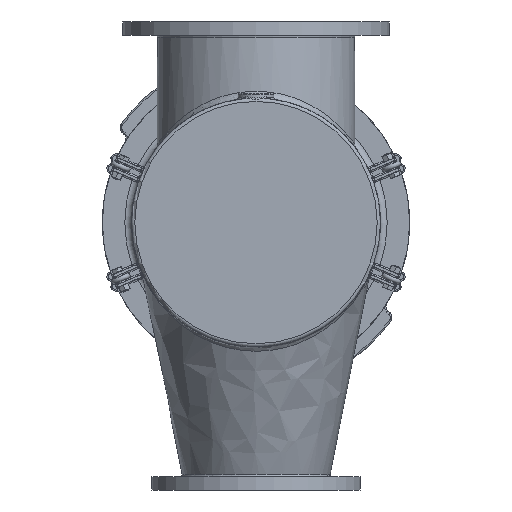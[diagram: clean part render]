
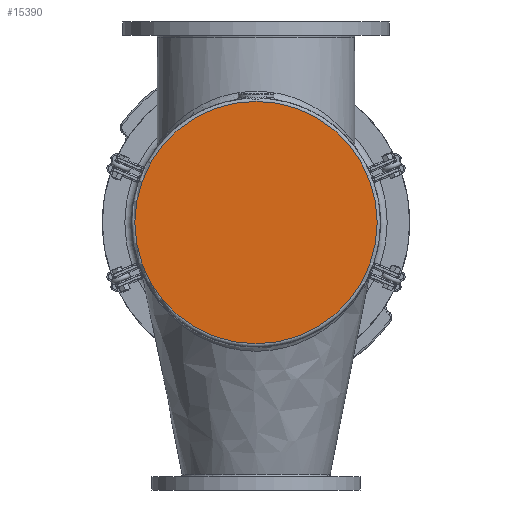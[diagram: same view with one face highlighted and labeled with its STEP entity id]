
A CAD part, front view. The second image highlights one B-rep face of the part: STEP entity #15390.
In plain terms, the highlighted planar face has unit normal (0, -1, 0).
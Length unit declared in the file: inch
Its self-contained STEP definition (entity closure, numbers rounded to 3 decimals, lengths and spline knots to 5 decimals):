
#2183=PLANE('',#16423);
#3471=FACE_OUTER_BOUND('',#4459,.T.);
#4459=EDGE_LOOP('',(#10255));
#5668=CIRCLE('',#16415,9.0625);
#6629=VERTEX_POINT('',#23529);
#8024=EDGE_CURVE('',#6629,#6629,#5668,.T.);
#10255=ORIENTED_EDGE('',*,*,#8024,.F.);
#15390=ADVANCED_FACE('',(#3471),#2183,.F.);
#16415=AXIS2_PLACEMENT_3D('',#23530,#18436,#18437);
#16423=AXIS2_PLACEMENT_3D('',#23541,#18452,#18453);
#18436=DIRECTION('center_axis',(0.,1.,0.));
#18437=DIRECTION('ref_axis',(1.,0.,0.));
#18452=DIRECTION('center_axis',(0.,1.,0.));
#18453=DIRECTION('ref_axis',(0.,0.,1.));
#23529=CARTESIAN_POINT('',(-9.0625,0.,0.));
#23530=CARTESIAN_POINT('Origin',(0.,0.,0.));
#23541=CARTESIAN_POINT('Origin',(0.,0.,0.));
